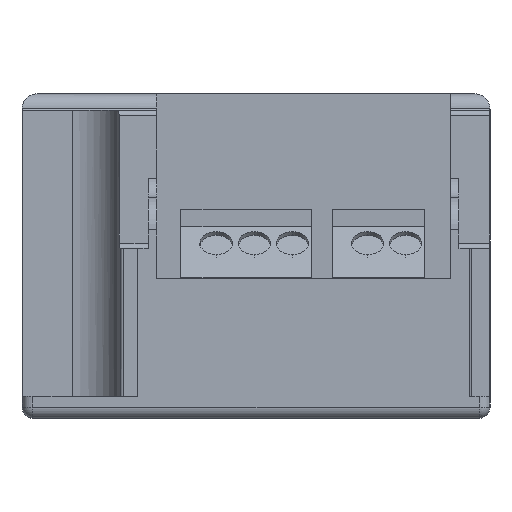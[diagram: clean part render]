
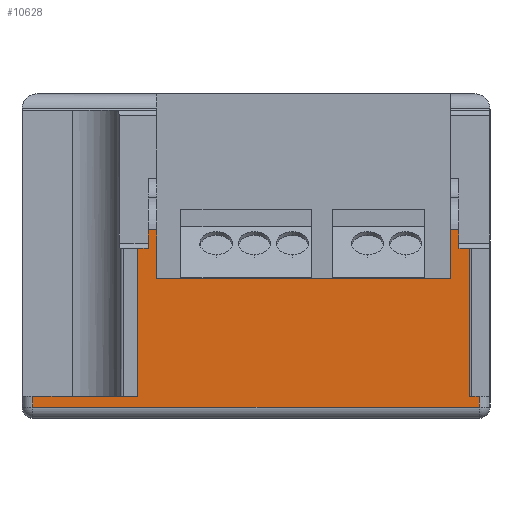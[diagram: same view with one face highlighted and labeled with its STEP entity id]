
A CAD part, left-side view. The second image highlights one B-rep face of the part: STEP entity #10628.
In plain terms, the highlighted planar face has unit normal (-1, 0, 0).
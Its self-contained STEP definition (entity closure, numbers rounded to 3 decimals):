
#3040=DIRECTION('',(0.,0.,-1.));
#3041=VECTOR('',#3040,4.5);
#3042=CARTESIAN_POINT('',(-14.588,-11.919,
6.27));
#3043=LINE('',#3042,#3041);
#3068=DIRECTION('',(0.,1.,0.));
#3069=VECTOR('',#3068,27.032);
#3070=CARTESIAN_POINT('',(-14.588,-11.921,
1.77));
#3071=LINE('',#3070,#3069);
#3355=DIRECTION('',(0.,0.,1.));
#3356=VECTOR('',#3355,4.5);
#3357=CARTESIAN_POINT('',(-14.588,15.112,1.77));
#3358=LINE('',#3357,#3356);
#3595=DIRECTION('',(0.,0.,1.));
#3596=VECTOR('',#3595,13.6);
#3597=CARTESIAN_POINT('',(-14.588,16.862,
-9.03));
#3598=LINE('',#3597,#3596);
#3602=DIRECTION('',(0.,1.,0.));
#3603=VECTOR('',#3602,0.747);
#3604=CARTESIAN_POINT('',(-14.588,-12.666,
6.27));
#3605=LINE('',#3604,#3603);
#3616=DIRECTION('',(0.,0.,1.));
#3617=VECTOR('',#3616,1.7);
#3618=CARTESIAN_POINT('',(-14.588,-12.666,
4.57));
#3619=LINE('',#3618,#3617);
#3709=DIRECTION('',(0.,1.,0.));
#3710=VECTOR('',#3709,1.);
#3711=CARTESIAN_POINT('',(-14.588,-13.666,
4.57));
#3712=LINE('',#3711,#3710);
#3731=DIRECTION('',(0.,1.,0.));
#3732=VECTOR('',#3731,0.855);
#3733=CARTESIAN_POINT('',(-14.588,-14.521,
-9.03));
#3734=LINE('',#3733,#3732);
#3820=DIRECTION('',(0.,0.,1.));
#3821=VECTOR('',#3820,1.);
#3822=CARTESIAN_POINT('',(-14.588,-14.521,
-10.03));
#3823=LINE('',#3822,#3821);
#3865=DIRECTION('',(0.,-1.,0.));
#3866=VECTOR('',#3865,41.);
#3867=CARTESIAN_POINT('',(-14.588,26.479,
-10.03));
#3868=LINE('',#3867,#3866);
#4052=DIRECTION('',(0.,1.,0.));
#4053=VECTOR('',#4052,9.617);
#4054=CARTESIAN_POINT('',(-14.588,16.862,
-9.03));
#4055=LINE('',#4054,#4053);
#5056=DIRECTION('',(0.,0.,-1.));
#5057=VECTOR('',#5056,1.7);
#5058=CARTESIAN_POINT('',(-14.588,15.862,6.27));
#5059=LINE('',#5058,#5057);
#5260=DIRECTION('',(0.,1.,0.));
#5261=VECTOR('',#5260,0.75);
#5262=CARTESIAN_POINT('',(-14.588,15.112,6.27));
#5263=LINE('',#5262,#5261);
#5267=DIRECTION('',(0.,1.,0.));
#5268=VECTOR('',#5267,1.);
#5269=CARTESIAN_POINT('',(-14.588,15.862,4.57));
#5270=LINE('',#5269,#5268);
#5336=DIRECTION('',(0.,0.,-1.));
#5337=VECTOR('',#5336,1.);
#5338=CARTESIAN_POINT('',(-14.588,26.479,
-9.03));
#5339=LINE('',#5338,#5337);
#5357=DIRECTION('',(0.,0.,1.));
#5358=VECTOR('',#5357,13.6);
#5359=CARTESIAN_POINT('',(-14.588,-13.666,
-9.03));
#5360=LINE('',#5359,#5358);
#7471=CARTESIAN_POINT('',(-14.588,-11.921,
1.77));
#7473=VERTEX_POINT('',#7471);
#7492=CARTESIAN_POINT('',(-14.588,-11.916,
6.27));
#7493=VERTEX_POINT('',#7492);
#7494=CARTESIAN_POINT('',(-14.588,15.112,1.77));
#7495=VERTEX_POINT('',#7494);
#7504=CARTESIAN_POINT('',(-14.588,15.112,6.27));
#7505=VERTEX_POINT('',#7504);
#7538=CARTESIAN_POINT('',(-14.588,-12.666,
6.27));
#7539=VERTEX_POINT('',#7538);
#7540=CARTESIAN_POINT('',(-14.588,-12.666,
4.57));
#7541=VERTEX_POINT('',#7540);
#7542=CARTESIAN_POINT('',(-14.588,-13.666,
4.57));
#7543=VERTEX_POINT('',#7542);
#7544=CARTESIAN_POINT('',(-14.588,-13.666,
-9.03));
#7545=VERTEX_POINT('',#7544);
#7546=CARTESIAN_POINT('',(-14.588,-14.521,
-9.03));
#7547=VERTEX_POINT('',#7546);
#7548=CARTESIAN_POINT('',(-14.588,-14.521,
-10.03));
#7549=VERTEX_POINT('',#7548);
#7550=CARTESIAN_POINT('',(-14.588,26.479,
-10.03));
#7551=VERTEX_POINT('',#7550);
#7552=CARTESIAN_POINT('',(-14.588,26.479,
-9.03));
#7553=VERTEX_POINT('',#7552);
#7554=CARTESIAN_POINT('',(-14.588,16.862,
-9.03));
#7555=VERTEX_POINT('',#7554);
#7556=CARTESIAN_POINT('',(-14.588,16.862,4.57));
#7557=VERTEX_POINT('',#7556);
#7558=CARTESIAN_POINT('',(-14.588,15.862,4.57));
#7559=VERTEX_POINT('',#7558);
#7560=CARTESIAN_POINT('',(-14.588,15.862,6.27));
#7561=VERTEX_POINT('',#7560);
#10592=CARTESIAN_POINT('',(-14.588,27.479,
-11.03));
#10593=DIRECTION('',(-1.,0.,0.));
#10594=DIRECTION('',(0.,-1.,0.));
#10595=AXIS2_PLACEMENT_3D('',#10592,#10593,#10594);
#10596=PLANE('',#10595);
#10597=ORIENTED_EDGE('',*,*,#10152,.F.);
#10599=ORIENTED_EDGE('',*,*,#10598,.F.);
#10601=ORIENTED_EDGE('',*,*,#10600,.F.);
#10603=ORIENTED_EDGE('',*,*,#10602,.F.);
#10605=ORIENTED_EDGE('',*,*,#10604,.F.);
#10607=ORIENTED_EDGE('',*,*,#10606,.F.);
#10609=ORIENTED_EDGE('',*,*,#10608,.F.);
#10611=ORIENTED_EDGE('',*,*,#10610,.F.);
#10613=ORIENTED_EDGE('',*,*,#10612,.F.);
#10615=ORIENTED_EDGE('',*,*,#10614,.F.);
#10617=ORIENTED_EDGE('',*,*,#10616,.T.);
#10619=ORIENTED_EDGE('',*,*,#10618,.F.);
#10621=ORIENTED_EDGE('',*,*,#10620,.F.);
#10623=ORIENTED_EDGE('',*,*,#10622,.F.);
#10624=ORIENTED_EDGE('',*,*,#10408,.F.);
#10625=ORIENTED_EDGE('',*,*,#10171,.F.);
#10626=EDGE_LOOP('',(#10597,#10599,#10601,#10603,#10605,#10607,#10609,#10611,
#10613,#10615,#10617,#10619,#10621,#10623,#10624,#10625));
#10627=FACE_OUTER_BOUND('',#10626,.F.);
#10152=EDGE_CURVE('',#7493,#7473,#3043,.T.);
#10171=EDGE_CURVE('',#7473,#7495,#3071,.T.);
#10408=EDGE_CURVE('',#7495,#7505,#3358,.T.);
#10598=EDGE_CURVE('',#7539,#7493,#3605,.T.);
#10600=EDGE_CURVE('',#7541,#7539,#3619,.T.);
#10602=EDGE_CURVE('',#7543,#7541,#3712,.T.);
#10604=EDGE_CURVE('',#7545,#7543,#5360,.T.);
#10606=EDGE_CURVE('',#7547,#7545,#3734,.T.);
#10608=EDGE_CURVE('',#7549,#7547,#3823,.T.);
#10610=EDGE_CURVE('',#7551,#7549,#3868,.T.);
#10612=EDGE_CURVE('',#7553,#7551,#5339,.T.);
#10614=EDGE_CURVE('',#7555,#7553,#4055,.T.);
#10616=EDGE_CURVE('',#7555,#7557,#3598,.T.);
#10618=EDGE_CURVE('',#7559,#7557,#5270,.T.);
#10620=EDGE_CURVE('',#7561,#7559,#5059,.T.);
#10622=EDGE_CURVE('',#7505,#7561,#5263,.T.);
#10628=ADVANCED_FACE('',(#10627),#10596,.T.);
